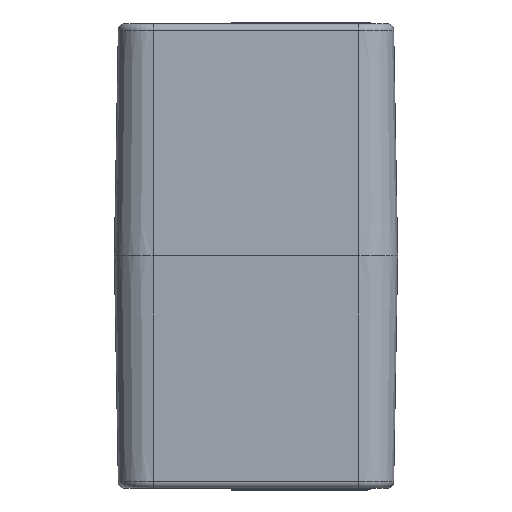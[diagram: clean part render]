
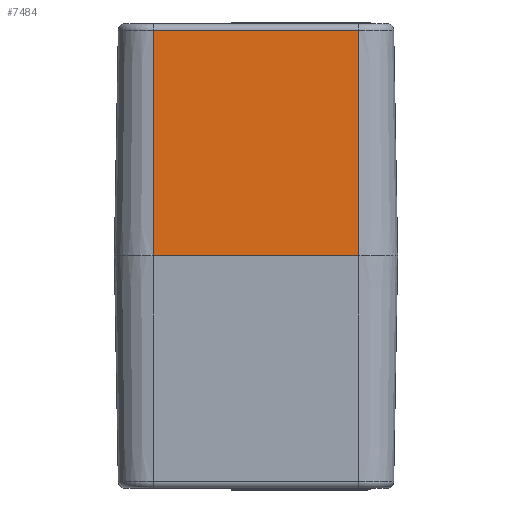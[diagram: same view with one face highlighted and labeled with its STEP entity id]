
A CAD part, top view. The second image highlights one B-rep face of the part: STEP entity #7484.
In plain terms, the highlighted planar face has unit normal (0, 0.018, 1).
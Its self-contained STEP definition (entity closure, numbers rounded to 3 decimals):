
#6893 = CYLINDRICAL_SURFACE('',#6894,0.508);
#6894 = AXIS2_PLACEMENT_3D('',#6895,#6896,#6897);
#6895 = CARTESIAN_POINT('',(-7.392,17.272,7.231));
#6896 = DIRECTION('',(1.,0.,0.));
#6897 = DIRECTION('',(0.,0.,-1.));
#7371 = EDGE_CURVE('',#7372,#7374,#7376,.T.);
#7372 = VERTEX_POINT('',#7373);
#7373 = CARTESIAN_POINT('',(-7.392,17.281,
    7.739));
#7374 = VERTEX_POINT('',#7375);
#7375 = CARTESIAN_POINT('',(-7.392,0.,8.041));
#7376 = SURFACE_CURVE('',#7377,(#7381,#7393),.PCURVE_S1.);
#7377 = LINE('',#7378,#7379);
#7378 = CARTESIAN_POINT('',(-7.392,0.,8.041));
#7379 = VECTOR('',#7380,1.);
#7380 = DIRECTION('',(0.,-1.,0.017));
#7381 = PCURVE('',#7382,#7387);
#7382 = CONICAL_SURFACE('',#7383,2.974,0.017);
#7383 = AXIS2_PLACEMENT_3D('',#7384,#7385,#7386);
#7384 = CARTESIAN_POINT('',(-7.392,0.,5.067));
#7385 = DIRECTION('',(-0.,-1.,-0.));
#7386 = DIRECTION('',(0.,0.,1.));
#7387 = DEFINITIONAL_REPRESENTATION('',(#7388),#7392);
#7388 = LINE('',#7389,#7390);
#7389 = CARTESIAN_POINT('',(0.,0.));
#7390 = VECTOR('',#7391,1.);
#7391 = DIRECTION('',(0.,1.));
#7392 = ( GEOMETRIC_REPRESENTATION_CONTEXT(2) 
PARAMETRIC_REPRESENTATION_CONTEXT() REPRESENTATION_CONTEXT('2D SPACE',''
  ) );
#7393 = PCURVE('',#7394,#7399);
#7394 = PLANE('',#7395);
#7395 = AXIS2_PLACEMENT_3D('',#7396,#7397,#7398);
#7396 = CARTESIAN_POINT('',(-7.392,0.,8.041));
#7397 = DIRECTION('',(0.,0.017,1.));
#7398 = DIRECTION('',(0.,-1.,0.017));
#7399 = DEFINITIONAL_REPRESENTATION('',(#7400),#7404);
#7400 = LINE('',#7401,#7402);
#7401 = CARTESIAN_POINT('',(0.,0.));
#7402 = VECTOR('',#7403,1.);
#7403 = DIRECTION('',(1.,0.));
#7404 = ( GEOMETRIC_REPRESENTATION_CONTEXT(2) 
PARAMETRIC_REPRESENTATION_CONTEXT() REPRESENTATION_CONTEXT('2D SPACE',''
  ) );
#7473 = PLANE('',#7474);
#7474 = AXIS2_PLACEMENT_3D('',#7475,#7476,#7477);
#7475 = CARTESIAN_POINT('',(-7.392,0.,5.067));
#7476 = DIRECTION('',(0.,1.,0.));
#7477 = DIRECTION('',(0.,0.,1.));
#7484 = ADVANCED_FACE('',(#7485),#7394,.T.);
#7485 = FACE_BOUND('',#7486,.T.);
#7486 = EDGE_LOOP('',(#7487,#7517,#7538,#7539));
#7487 = ORIENTED_EDGE('',*,*,#7488,.F.);
#7488 = EDGE_CURVE('',#7489,#7491,#7493,.T.);
#7489 = VERTEX_POINT('',#7490);
#7490 = CARTESIAN_POINT('',(8.356,17.281,7.739
    ));
#7491 = VERTEX_POINT('',#7492);
#7492 = CARTESIAN_POINT('',(8.356,0.,8.041));
#7493 = SURFACE_CURVE('',#7494,(#7498,#7505),.PCURVE_S1.);
#7494 = LINE('',#7495,#7496);
#7495 = CARTESIAN_POINT('',(8.356,0.,
    8.041));
#7496 = VECTOR('',#7497,1.);
#7497 = DIRECTION('',(0.,-1.,0.017));
#7498 = PCURVE('',#7394,#7499);
#7499 = DEFINITIONAL_REPRESENTATION('',(#7500),#7504);
#7500 = LINE('',#7501,#7502);
#7501 = CARTESIAN_POINT('',(0.,15.748));
#7502 = VECTOR('',#7503,1.);
#7503 = DIRECTION('',(1.,0.));
#7504 = ( GEOMETRIC_REPRESENTATION_CONTEXT(2) 
PARAMETRIC_REPRESENTATION_CONTEXT() REPRESENTATION_CONTEXT('2D SPACE',''
  ) );
#7505 = PCURVE('',#7506,#7511);
#7506 = CONICAL_SURFACE('',#7507,2.974,0.017);
#7507 = AXIS2_PLACEMENT_3D('',#7508,#7509,#7510);
#7508 = CARTESIAN_POINT('',(8.356,0.,5.067));
#7509 = DIRECTION('',(-0.,-1.,-0.));
#7510 = DIRECTION('',(0.,0.,1.));
#7511 = DEFINITIONAL_REPRESENTATION('',(#7512),#7516);
#7512 = LINE('',#7513,#7514);
#7513 = CARTESIAN_POINT('',(6.283,0.));
#7514 = VECTOR('',#7515,1.);
#7515 = DIRECTION('',(0.,1.));
#7516 = ( GEOMETRIC_REPRESENTATION_CONTEXT(2) 
PARAMETRIC_REPRESENTATION_CONTEXT() REPRESENTATION_CONTEXT('2D SPACE',''
  ) );
#7517 = ORIENTED_EDGE('',*,*,#7518,.T.);
#7518 = EDGE_CURVE('',#7489,#7372,#7519,.T.);
#7519 = SURFACE_CURVE('',#7520,(#7524,#7531),.PCURVE_S1.);
#7520 = LINE('',#7521,#7522);
#7521 = CARTESIAN_POINT('',(-7.392,17.281,
    7.739));
#7522 = VECTOR('',#7523,1.);
#7523 = DIRECTION('',(-1.,0.,0.));
#7524 = PCURVE('',#7394,#7525);
#7525 = DEFINITIONAL_REPRESENTATION('',(#7526),#7530);
#7526 = LINE('',#7527,#7528);
#7527 = CARTESIAN_POINT('',(-17.283,0.));
#7528 = VECTOR('',#7529,1.);
#7529 = DIRECTION('',(0.,-1.));
#7530 = ( GEOMETRIC_REPRESENTATION_CONTEXT(2) 
PARAMETRIC_REPRESENTATION_CONTEXT() REPRESENTATION_CONTEXT('2D SPACE',''
  ) );
#7531 = PCURVE('',#6893,#7532);
#7532 = DEFINITIONAL_REPRESENTATION('',(#7533),#7537);
#7533 = LINE('',#7534,#7535);
#7534 = CARTESIAN_POINT('',(3.124,0.));
#7535 = VECTOR('',#7536,1.);
#7536 = DIRECTION('',(0.,-1.));
#7537 = ( GEOMETRIC_REPRESENTATION_CONTEXT(2) 
PARAMETRIC_REPRESENTATION_CONTEXT() REPRESENTATION_CONTEXT('2D SPACE',''
  ) );
#7538 = ORIENTED_EDGE('',*,*,#7371,.T.);
#7539 = ORIENTED_EDGE('',*,*,#7540,.T.);
#7540 = EDGE_CURVE('',#7374,#7491,#7541,.T.);
#7541 = SURFACE_CURVE('',#7542,(#7546,#7553),.PCURVE_S1.);
#7542 = LINE('',#7543,#7544);
#7543 = CARTESIAN_POINT('',(-7.392,0.,8.041));
#7544 = VECTOR('',#7545,1.);
#7545 = DIRECTION('',(1.,0.,0.));
#7546 = PCURVE('',#7394,#7547);
#7547 = DEFINITIONAL_REPRESENTATION('',(#7548),#7552);
#7548 = LINE('',#7549,#7550);
#7549 = CARTESIAN_POINT('',(0.,0.));
#7550 = VECTOR('',#7551,1.);
#7551 = DIRECTION('',(0.,1.));
#7552 = ( GEOMETRIC_REPRESENTATION_CONTEXT(2) 
PARAMETRIC_REPRESENTATION_CONTEXT() REPRESENTATION_CONTEXT('2D SPACE',''
  ) );
#7553 = PCURVE('',#7473,#7554);
#7554 = DEFINITIONAL_REPRESENTATION('',(#7555),#7559);
#7555 = LINE('',#7556,#7557);
#7556 = CARTESIAN_POINT('',(2.974,0.));
#7557 = VECTOR('',#7558,1.);
#7558 = DIRECTION('',(0.,1.));
#7559 = ( GEOMETRIC_REPRESENTATION_CONTEXT(2) 
PARAMETRIC_REPRESENTATION_CONTEXT() REPRESENTATION_CONTEXT('2D SPACE',''
  ) );
